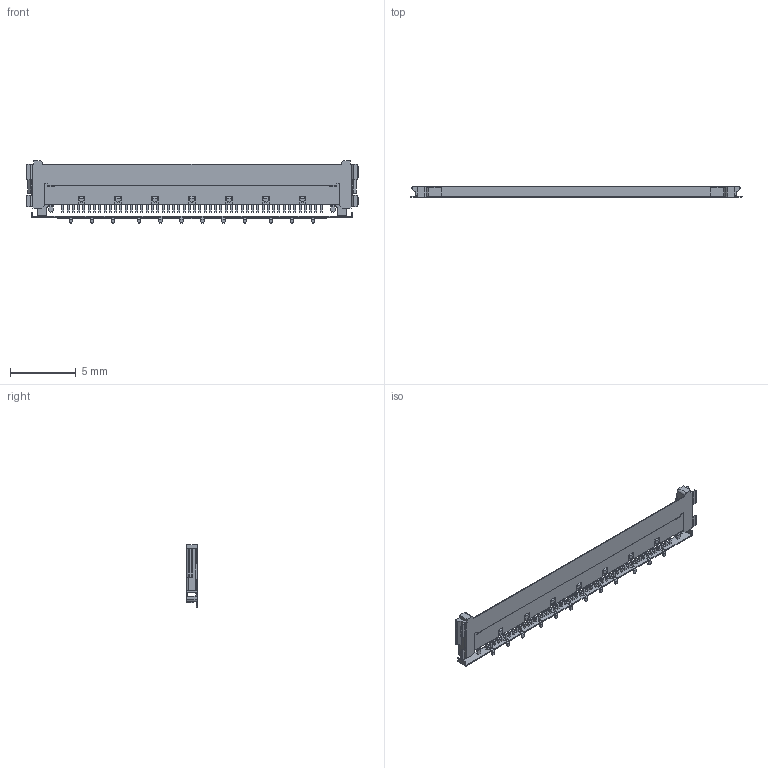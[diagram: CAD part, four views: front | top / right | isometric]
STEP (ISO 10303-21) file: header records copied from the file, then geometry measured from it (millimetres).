
FILE_DESCRIPTION (( 'STEP AP203' ), '1' );
FILE_NAME ('50P RECE STEP IGES.STEP', '2016-11-16T11:40:30', ( '' ), ( '' ), 'SwSTEP 2.0', 'SolidWorks 2014', '' );
FILE_SCHEMA (( 'CONFIG_CONTROL_DESIGN' ));
Length unit declared in the file: millimetre
Products named in the file (1): 50P RECE STEP IGES
Bounding box: 25.2 x 0.82 x 4.73 mm (x, y, z)
Volume: 46.3 mm3; surface area: 289.5 mm2
Topology: 1 solids, 1 shells, 1489 faces, 4103 edges, 2722 vertices
Faces by surface type: plane 1075, cylinder 414
Entity records: 47196 total; most frequent: CARTESIAN_POINT 8381, ORIENTED_EDGE 8206, DIRECTION 7879, EDGE_CURVE 4103, LINE 3263, VECTOR 3263, VERTEX_POINT 2722, AXIS2_PLACEMENT_3D 2308
